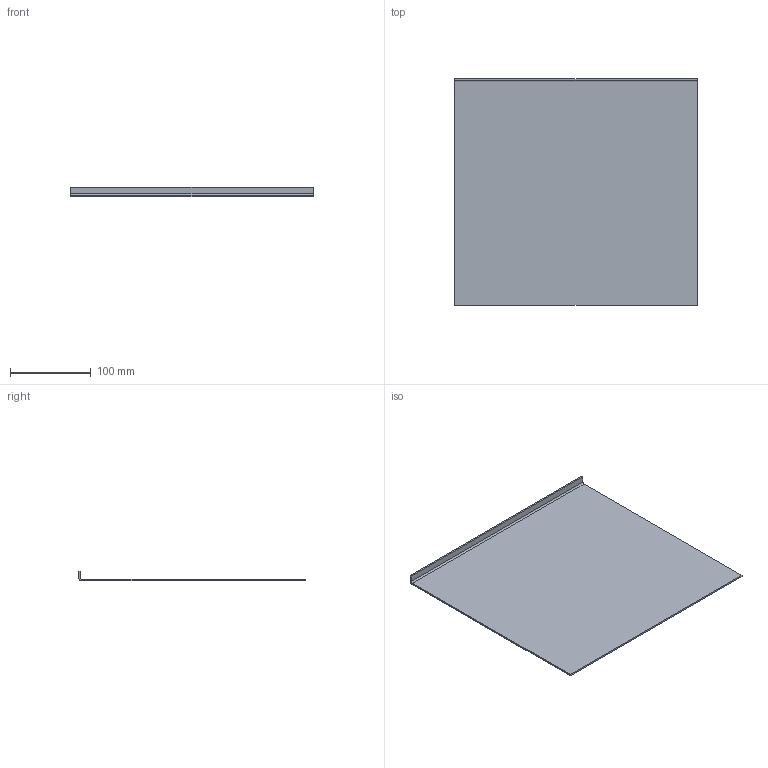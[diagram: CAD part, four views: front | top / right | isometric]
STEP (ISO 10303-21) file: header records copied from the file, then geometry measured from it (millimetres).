
FILE_DESCRIPTION(('Open CASCADE Model'),'2;1');
FILE_NAME('Open CASCADE Shape Model','2026-09-23T02:05:59',('Author'),( 'Open CASCADE'),'Open CASCADE STEP processor 7.7','Open CASCADE 7.7' ,'Unknown');
FILE_SCHEMA(('AUTOMOTIVE_DESIGN { 1 0 10303 214 1 1 1 1 }'));
Length unit declared in the file: millimetre
Products named in the file (1): Open CASCADE STEP translator 7.7 4
Bounding box: 300 x 280 x 12 mm (x, y, z)
Volume: 173227.4 mm3; surface area: 175582.3 mm2
Topology: 1 solids, 1 shells, 10 faces, 24 edges, 16 vertices
Faces by surface type: plane 8, cylinder 2
Entity records: 620 total; most frequent: CARTESIAN_POINT 111, DIRECTION 96, LINE 64, VECTOR 64, ORIENTED_EDGE 48, PCURVE 48, DEFINITIONAL_REPRESENTATION 48, EDGE_CURVE 24
